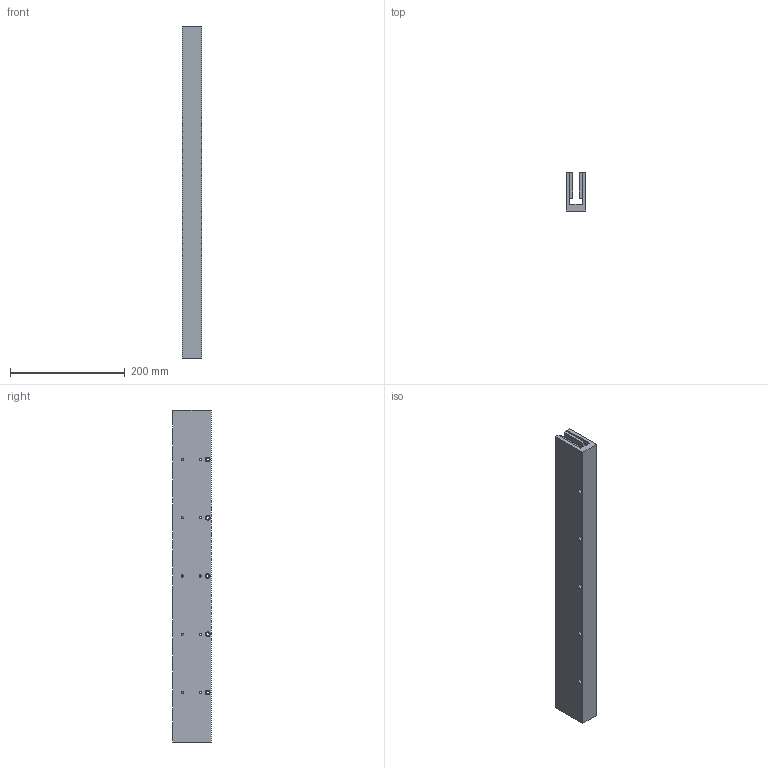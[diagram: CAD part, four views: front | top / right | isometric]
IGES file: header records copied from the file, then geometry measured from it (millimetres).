
Global section: file name: No Iges File Name specified; native system: Autodesk Inventor 2009; preprocessor: AutoDesk Inventor Iges Exporter R2009; author: je17857; date: 20091116.111506; units: inch
Bounding box: 34.29 x 67.31 x 579.12 mm (x, y, z)
Volume: 866929.7 mm3; surface area: 218463.3 mm2
Topology: 1 solids, 1 shells, 290 faces, 690 edges, 460 vertices
Faces by surface type: plane 210, bspline 80
